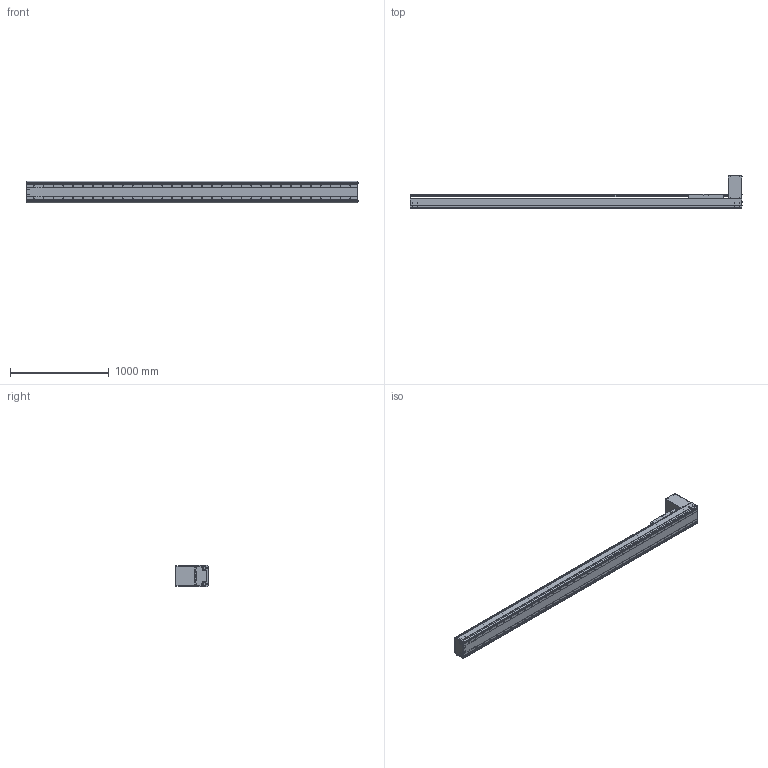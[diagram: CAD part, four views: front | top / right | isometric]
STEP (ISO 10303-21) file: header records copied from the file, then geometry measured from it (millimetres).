
FILE_DESCRIPTION((''),'2;1');
FILE_NAME('BE60J-BT-L19N-T5_IGS_PRT','2017-06-18T',(' '),(''),'PRO/ENGINEER BY PARAMETRIC TECHNOLOGY CORPORATION, 2015030','PRO/ENGINEER BY PARAMETRIC TECHNOLOGY CORPORATION, 2015030','');
FILE_SCHEMA(('CONFIG_CONTROL_DESIGN'));
Products named in the file (1): BE60J-BT-L19N-T5_IGS_PRT
Bounding box: 3354.4 x 327.5 x 214 mm (x, y, z)
Volume: 25718569.9 mm3; surface area: 7106385.8 mm2
Topology: 2 solids, 391 shells, 2664 faces, 7570 edges, 5099 vertices
Faces by surface type: cylinder 1356, plane 900, cone 312, sphere 48, torus 48
Entity records: 89683 total; most frequent: CARTESIAN_POINT 21102, DIRECTION 14261, ORIENTED_EDGE 13388, EDGE_CURVE 7356, AXIS2_PLACEMENT_3D 5477, VERTEX_POINT 5088, VECTOR 3307, LINE 3307
